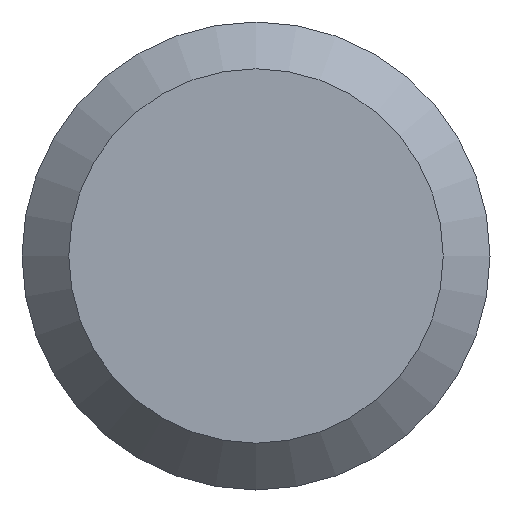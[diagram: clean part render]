
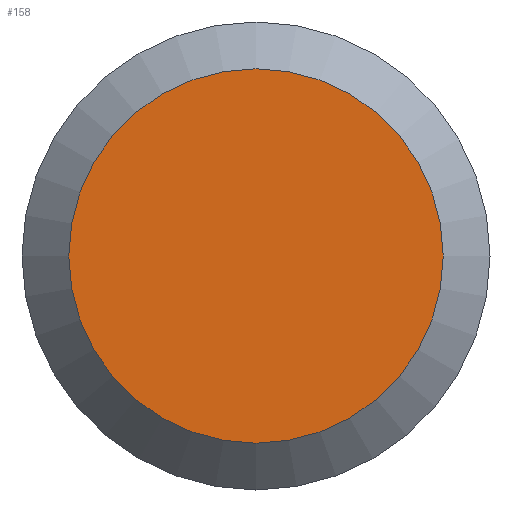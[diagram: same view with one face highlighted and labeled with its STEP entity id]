
A CAD part, left-side view. The second image highlights one B-rep face of the part: STEP entity #158.
In plain terms, the highlighted planar face has unit normal (-1, 0, 0).
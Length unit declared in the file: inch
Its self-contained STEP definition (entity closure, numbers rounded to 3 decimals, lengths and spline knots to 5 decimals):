
#5 = AXIS2_PLACEMENT_3D ( 'NONE', #232, #166, #114 ) ;
#47 = EDGE_LOOP ( 'NONE', ( #66 ) ) ;
#64 = CARTESIAN_POINT ( 'NONE',  ( 0., 0.184, 0. ) ) ;
#66 = ORIENTED_EDGE ( 'NONE', *, *, #131, .T. ) ;
#68 = PLANE ( 'NONE',  #160 ) ;
#96 = VERTEX_POINT ( 'NONE', #248 ) ;
#114 = DIRECTION ( 'NONE',  ( 0., 0., -1. ) ) ;
#117 = FACE_OUTER_BOUND ( 'NONE', #47, .T. ) ;
#131 = EDGE_CURVE ( 'NONE', #96, #96, #202, .T. ) ;
#158 = ADVANCED_FACE ( 'NONE', ( #117 ), #68, .F. ) ;
#160 = AXIS2_PLACEMENT_3D ( 'NONE', #64, #171, #209 ) ;
#166 = DIRECTION ( 'NONE',  ( -1., 0., 0. ) ) ;
#171 = DIRECTION ( 'NONE',  ( 1., 0., 0. ) ) ;
#202 = CIRCLE ( 'NONE', #5, 0.1472 ) ;
#209 = DIRECTION ( 'NONE',  ( 0., 0., -1. ) ) ;
#232 = CARTESIAN_POINT ( 'NONE',  ( 0., 0., 0. ) ) ;
#248 = CARTESIAN_POINT ( 'NONE',  ( 0., 0., -0.1472 ) ) ;
